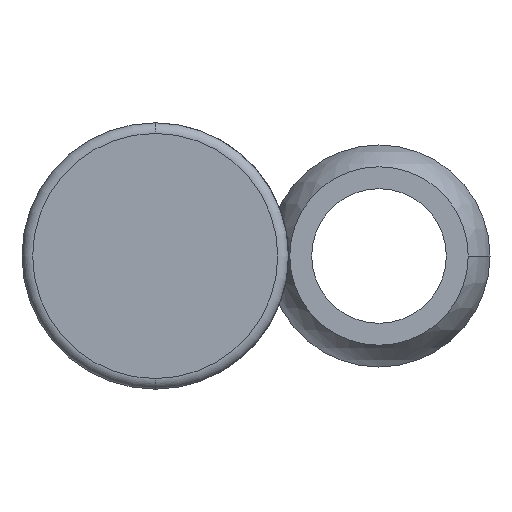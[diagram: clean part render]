
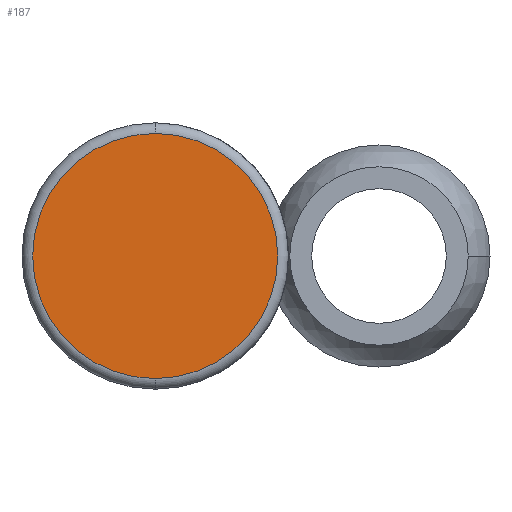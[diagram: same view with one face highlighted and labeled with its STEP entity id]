
A CAD part, front view. The second image highlights one B-rep face of the part: STEP entity #187.
In plain terms, the highlighted planar face has unit normal (0, -1, 0).
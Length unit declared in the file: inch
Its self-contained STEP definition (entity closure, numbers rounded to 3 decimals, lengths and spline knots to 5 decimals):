
#54 = DIRECTION ( 'NONE',  ( 0., -1., 0. ) ) ;
#187 = ADVANCED_FACE ( 'NONE', ( #285 ), #573, .F. ) ;
#252 = ORIENTED_EDGE ( 'NONE', *, *, #370, .T. ) ;
#285 = FACE_OUTER_BOUND ( 'NONE', #805, .T. ) ;
#286 = CIRCLE ( 'NONE', #1027, 0.345 ) ;
#357 = DIRECTION ( 'NONE',  ( 0., 0., 1. ) ) ;
#370 = EDGE_CURVE ( 'NONE', #647, #1176, #902, .T. ) ;
#392 = CARTESIAN_POINT ( 'NONE',  ( 0., -1.25, 0. ) ) ;
#506 = AXIS2_PLACEMENT_3D ( 'NONE', #392, #1021, #850 ) ;
#517 = DIRECTION ( 'NONE',  ( 0., 0., 1. ) ) ;
#542 = CARTESIAN_POINT ( 'NONE',  ( 0., -1.25, 0. ) ) ;
#573 = PLANE ( 'NONE',  #506 ) ;
#578 = ORIENTED_EDGE ( 'NONE', *, *, #991, .T. ) ;
#608 = CARTESIAN_POINT ( 'NONE',  ( 0., -1.25, 0. ) ) ;
#647 = VERTEX_POINT ( 'NONE', #906 ) ;
#805 = EDGE_LOOP ( 'NONE', ( #578, #252 ) ) ;
#850 = DIRECTION ( 'NONE',  ( 0., 0., 1. ) ) ;
#898 = AXIS2_PLACEMENT_3D ( 'NONE', #608, #54, #517 ) ;
#902 = CIRCLE ( 'NONE', #898, 0.345 ) ;
#906 = CARTESIAN_POINT ( 'NONE',  ( 0., -1.25, -0.345 ) ) ;
#990 = DIRECTION ( 'NONE',  ( 0., -1., 0. ) ) ;
#991 = EDGE_CURVE ( 'NONE', #1176, #647, #286, .T. ) ;
#1004 = CARTESIAN_POINT ( 'NONE',  ( 0., -1.25, 0.345 ) ) ;
#1021 = DIRECTION ( 'NONE',  ( 0., 1., 0. ) ) ;
#1027 = AXIS2_PLACEMENT_3D ( 'NONE', #542, #990, #357 ) ;
#1176 = VERTEX_POINT ( 'NONE', #1004 ) ;
